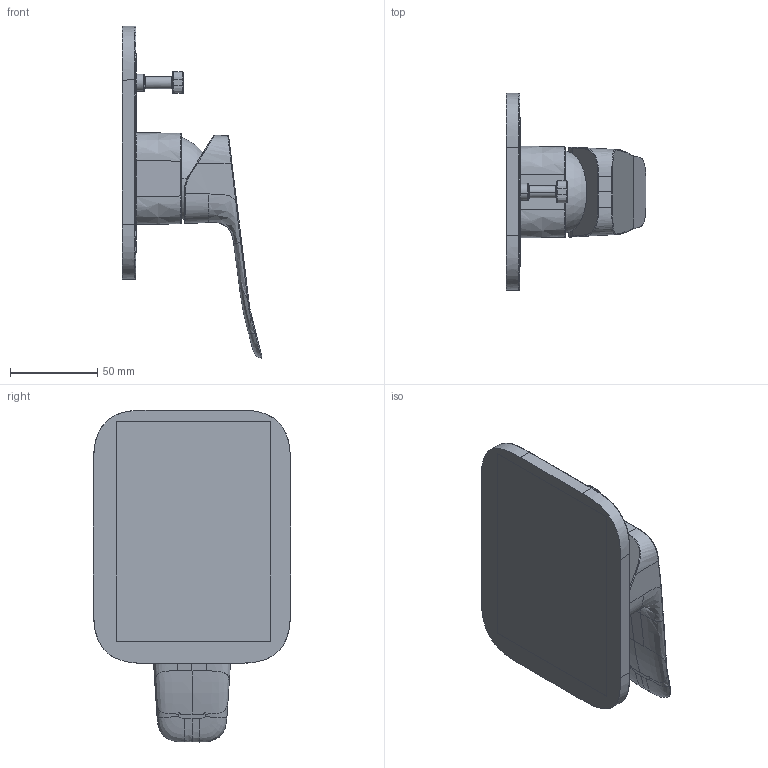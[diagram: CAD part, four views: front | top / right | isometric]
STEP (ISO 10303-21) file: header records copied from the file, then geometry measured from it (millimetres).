
FILE_DESCRIPTION(/* description */ ('AP214 STEP file'),/* implementation_level */ '2;1');
FILE_NAME(/* name */ '1018900000_out.stp',/* time_stamp */ '2025-03-26T08:21:25+01:00',/* author */ (''),/* organization */ (''),/* preprocessor_version */ 'ST-DEVELOPER v18.1',/* originating_system */ 'Elysium Co. Ltd. STEP Translator v8.3.0.0',/* authorisation */ '');
FILE_SCHEMA (('AUTOMOTIVE_DESIGN { 1 0 10303 214 3 1 1 }'));
Length unit declared in the file: millimetre
Products named in the file (1): 1018900000_extract
Bounding box: 80.22 x 112.98 x 190.31 mm (x, y, z)
Volume: 273197 mm3; surface area: 54540.9 mm2
Topology: 1 solids, 1 shells, 142 faces, 343 edges, 209 vertices
Faces by surface type: bspline 68, cylinder 26, plane 25, extrusion 13, torus 8, sphere 2
Entity records: 9363 total; most frequent: CARTESIAN_POINT 6585, ORIENTED_EDGE 686, EDGE_CURVE 343, STYLED_ITEM 284, B_SPLINE_CURVE_WITH_KNOTS 258, VERTEX_POINT 209, EDGE_LOOP 148, ADVANCED_FACE 142
